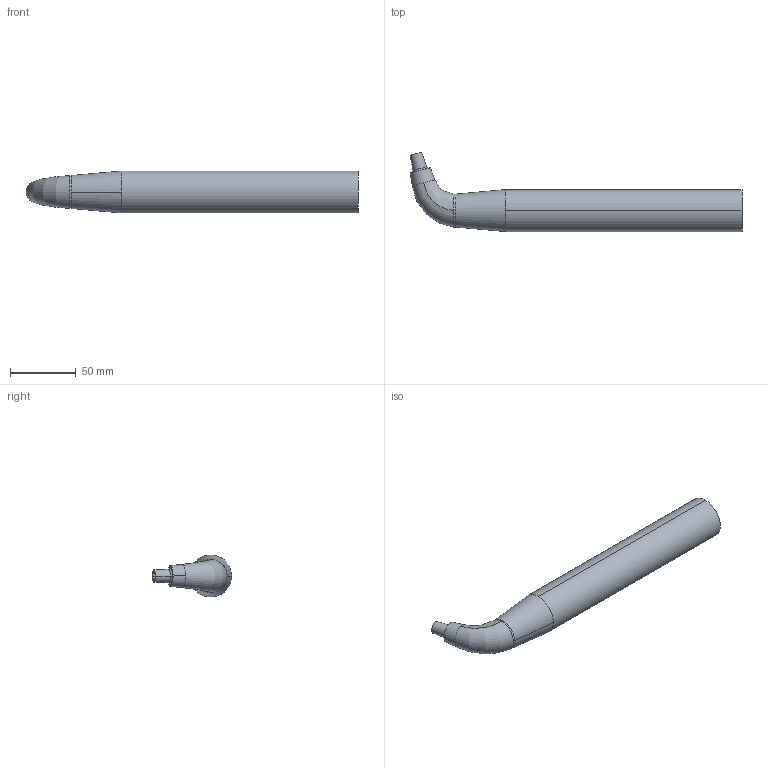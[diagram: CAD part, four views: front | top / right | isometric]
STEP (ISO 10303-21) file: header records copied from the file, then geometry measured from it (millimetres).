
FILE_DESCRIPTION( (''), '2;1');
FILE_NAME ('SY-2080-22_TB-32250-15-C1.stp','2022-04-10T00:22:56',(''),(''),'spGate 18.9.3 (****-****-****-****)','','');
FILE_SCHEMA (('AUTOMOTIVE_DESIGN'));
Length unit declared in the file: millimetre
Products named in the file (19): Assembly; SY-2080-22_TB-32250-15-C1-prt0; SY-2080-22_TB-32250-15-C1-prt1; SY-2080-22_TB-32250-15-C1-prt2; SY-2080-22_TB-32250-15-C1-prt3; SY-2080-22_TB-32250-15-C1-prt4; SY-2080-22_TB-32250-15-C1-prt5; SY-2080-22_TB-32250-15-C1-prt6; SY-2080-22_TB-32250-15-C1-prt7; SY-2080-22_TB-32250-15-C1-prt8; SY-2080-22_TB-32250-15-C1-prt9; SY-2080-22_TB-32250-15-C1-prt10; SY-2080-22_TB-32250-15-C1-prt11; SY-2080-22_TB-32250-15-C1-prt12; SY-2080-22_TB-32250-15-C1-prt13; SY-2080-22_TB-32250-15-C1-prt14; SY-2080-22_TB-32250-15-C1-prt15; SY-2080-22_TB-32250-15-C1-prt16; SY-2080-22_TB-32250-15-C1-prt17
Assembly tree (18 placements, depth 2):
  Assembly
    SY-2080-22_TB-32250-15-C1-prt0
    SY-2080-22_TB-32250-15-C1-prt1
    SY-2080-22_TB-32250-15-C1-prt2
    SY-2080-22_TB-32250-15-C1-prt3
    SY-2080-22_TB-32250-15-C1-prt4
    SY-2080-22_TB-32250-15-C1-prt5
    SY-2080-22_TB-32250-15-C1-prt6
    SY-2080-22_TB-32250-15-C1-prt7
    SY-2080-22_TB-32250-15-C1-prt8
    SY-2080-22_TB-32250-15-C1-prt9
    SY-2080-22_TB-32250-15-C1-prt10
    SY-2080-22_TB-32250-15-C1-prt11
    SY-2080-22_TB-32250-15-C1-prt12
    SY-2080-22_TB-32250-15-C1-prt13
    SY-2080-22_TB-32250-15-C1-prt14
    SY-2080-22_TB-32250-15-C1-prt15
    SY-2080-22_TB-32250-15-C1-prt16
    SY-2080-22_TB-32250-15-C1-prt17
Bounding box: 253.02 x 60.38 x 32 mm (x, y, z)
Volume: 166849.3 mm3; surface area: 33700.2 mm2
Topology: 1 solids, 1 shells, 37 faces, 111 edges, 94 vertices
Faces by surface type: bspline 20, cylinder 10, plane 7
Entity records: 3629 total; most frequent: CARTESIAN_POINT 1525, DIRECTION 238, ORIENTED_EDGE 186, COLOUR_RGB 148, PRESENTATION_STYLE_ASSIGNMENT 148, STYLED_ITEM 148, AXIS2_PLACEMENT_3D 111, DRAUGHTING_PRE_DEFINED_CURVE_FONT 110
